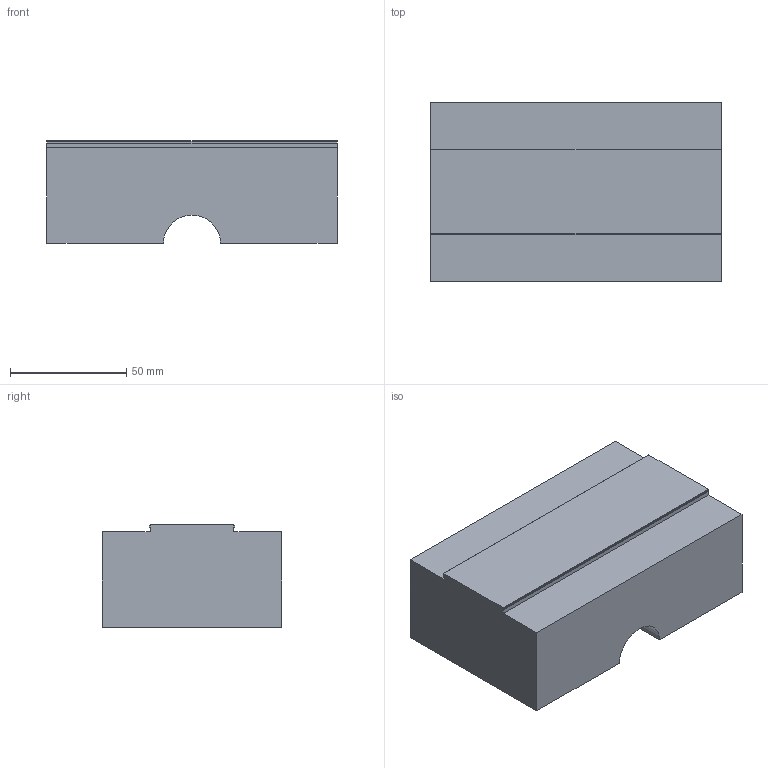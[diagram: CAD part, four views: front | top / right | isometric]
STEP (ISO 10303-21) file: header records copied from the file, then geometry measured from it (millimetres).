
FILE_DESCRIPTION (( 'STEP AP214' ), '1' );
FILE_NAME ('81483-03.STEP', '2022-01-05T06:19:09', ( '' ), ( '' ), 'SwSTEP 2.0', 'SolidWorks 2021', '' );
FILE_SCHEMA (( 'AUTOMOTIVE_DESIGN' ));
Length unit declared in the file: millimetre
Products named in the file (1): 81483-03
Bounding box: 124.6 x 77 x 44 mm (x, y, z)
Volume: 389091.6 mm3; surface area: 37373.2 mm2
Topology: 1 solids, 1 shells, 21 faces, 57 edges, 38 vertices
Faces by surface type: plane 19, cylinder 2
Entity records: 876 total; most frequent: CARTESIAN_POINT 117, ORIENTED_EDGE 114, DIRECTION 105, EDGE_CURVE 57, LINE 53, VECTOR 53, VERTEX_POINT 38, AXIS2_PLACEMENT_3D 26
